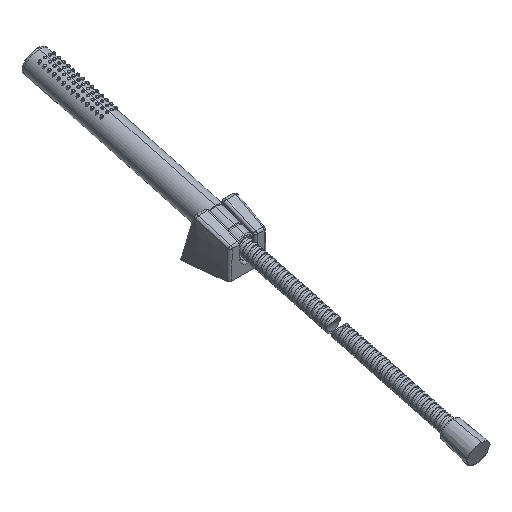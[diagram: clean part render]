
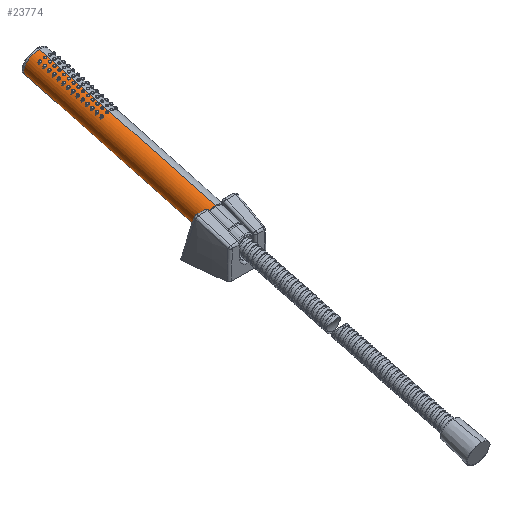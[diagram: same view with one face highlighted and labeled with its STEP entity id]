
A CAD part, isometric view. The second image highlights one B-rep face of the part: STEP entity #23774.
In plain terms, the highlighted cylindrical face has radius 12.5 mm (diameter 25 mm), a partial arc.
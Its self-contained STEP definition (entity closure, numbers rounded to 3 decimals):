
#23644=DIRECTION('',(0.,0.966,0.259));
#23645=VECTOR('',#23644,3.2);
#23646=CARTESIAN_POINT('',(-2.55,39.728,17.744));
#23647=LINE('',#23646,#23645);
#23648=CARTESIAN_POINT('',(0.,39.652,30.393));
#23649=DIRECTION('',(0.,0.966,0.259));
#23650=DIRECTION('',(0.,0.259,-0.966));
#23651=AXIS2_PLACEMENT_3D('',#23648,#23649,#23650);
#23653=DIRECTION('',(0.,0.966,0.259));
#23654=VECTOR('',#23653,181.8);
#23655=CARTESIAN_POINT('',(0.,42.887,
18.319));
#23656=LINE('',#23655,#23654);
#23657=DIRECTION('',(0.,0.966,0.259));
#23658=VECTOR('',#23657,185.);
#23659=CARTESIAN_POINT('',(0.,33.326,
41.638));
#23660=LINE('',#23659,#23658);
#23661=CARTESIAN_POINT('',(0.,36.561,29.564));
#23662=DIRECTION('',(0.,-0.966,-0.259));
#23663=DIRECTION('',(0.,-0.259,0.966));
#23664=AXIS2_PLACEMENT_3D('',#23661,#23662,#23663);
#23703=CARTESIAN_POINT('',(0.,215.257,
77.446));
#23704=DIRECTION('',(0.,-0.966,-0.259));
#23705=DIRECTION('',(0.,-0.259,0.966));
#23706=AXIS2_PLACEMENT_3D('',#23703,#23704,#23705);
#23708=CARTESIAN_POINT('',(0.,33.326,
41.638));
#23709=CARTESIAN_POINT('',(0.,212.022,89.52));
#23710=VERTEX_POINT('',#23708);
#23711=VERTEX_POINT('',#23709);
#23712=CARTESIAN_POINT('',(0.,218.493,
65.372));
#23713=VERTEX_POINT('',#23712);
#23718=CARTESIAN_POINT('',(-2.55,39.728,17.744));
#23720=VERTEX_POINT('',#23718);
#23724=CARTESIAN_POINT('',(0.,42.887,
18.319));
#23725=VERTEX_POINT('',#23724);
#23730=CARTESIAN_POINT('',(-2.55,42.819,18.572));
#23731=VERTEX_POINT('',#23730);
#23756=CARTESIAN_POINT('',(0.,27.626,27.17));
#23757=DIRECTION('',(0.,0.966,0.259));
#23758=DIRECTION('',(0.,-0.259,0.966));
#23759=AXIS2_PLACEMENT_3D('',#23756,#23757,#23758);
#23760=CYLINDRICAL_SURFACE('',#23759,12.5);
#23762=ORIENTED_EDGE('',*,*,#23761,.T.);
#23764=ORIENTED_EDGE('',*,*,#23763,.F.);
#23766=ORIENTED_EDGE('',*,*,#23765,.T.);
#23768=ORIENTED_EDGE('',*,*,#23767,.F.);
#23770=ORIENTED_EDGE('',*,*,#23769,.F.);
#23771=ORIENTED_EDGE('',*,*,#23749,.T.);
#23772=EDGE_LOOP('',(#23762,#23764,#23766,#23768,#23770,#23771));
#23773=FACE_OUTER_BOUND('',#23772,.F.);
#23774=ADVANCED_FACE('',(#23773),#23760,.T.);
#23652=CIRCLE('',#23651,12.5);
#23665=CIRCLE('',#23664,12.5);
#23707=CIRCLE('',#23706,12.5);
#23749=EDGE_CURVE('',#23710,#23720,#23665,.T.);
#23761=EDGE_CURVE('',#23720,#23731,#23647,.T.);
#23763=EDGE_CURVE('',#23725,#23731,#23652,.T.);
#23765=EDGE_CURVE('',#23725,#23713,#23656,.T.);
#23767=EDGE_CURVE('',#23711,#23713,#23707,.T.);
#23769=EDGE_CURVE('',#23710,#23711,#23660,.T.);
